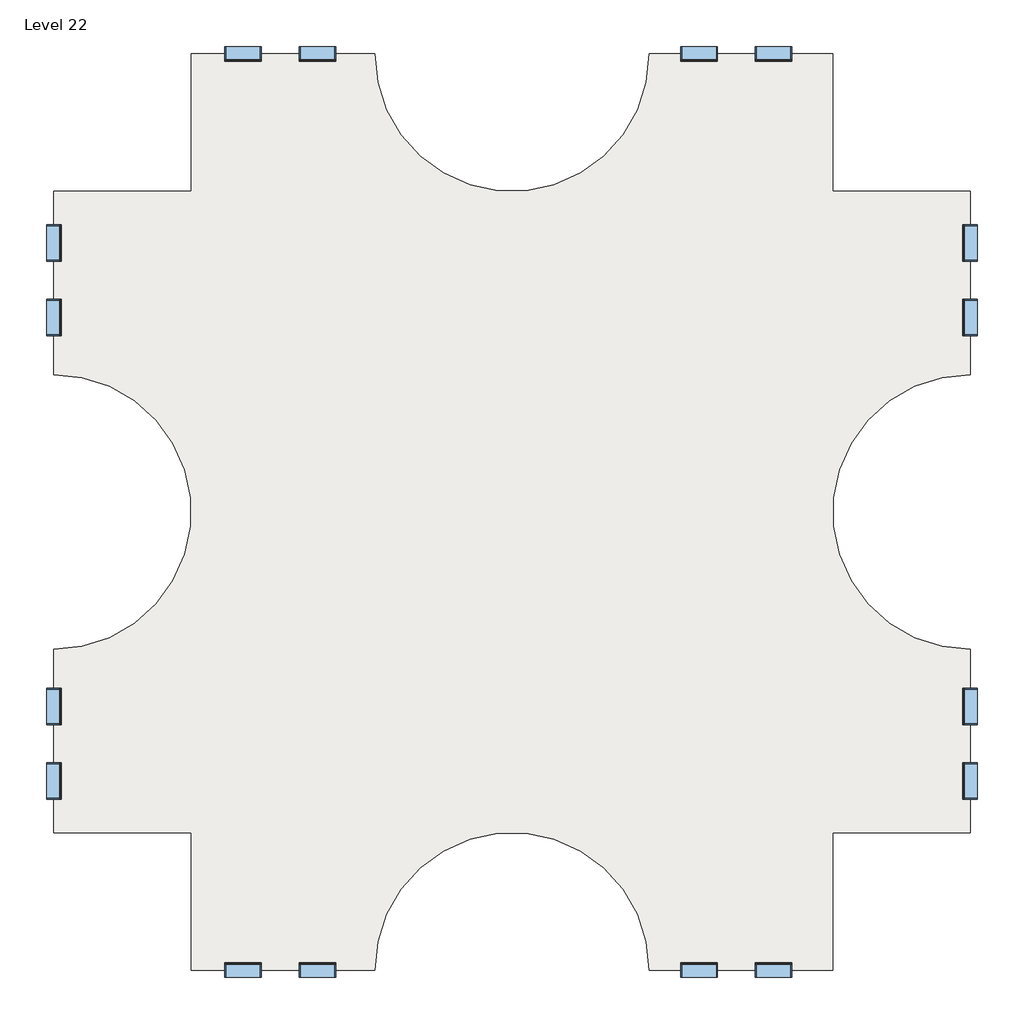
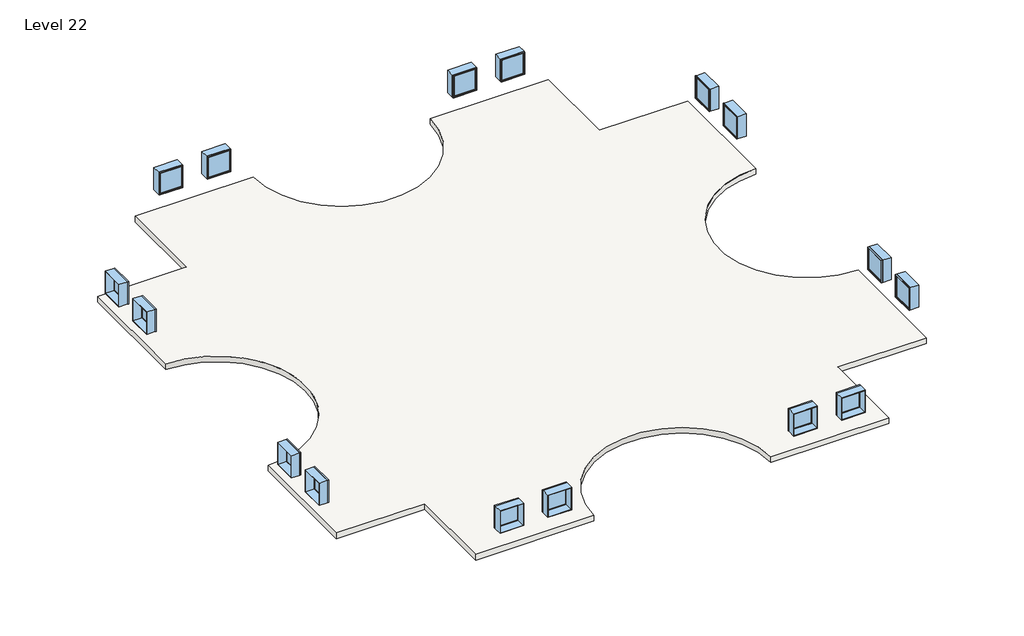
# One storey: 16 windows, 2 slabs.
"""IFC4 building model written with IfcOpenShell, lengths in millimetres."""

import ifcopenshell
import ifcopenshell.guid

model = None  # the IFC model being written
_history = None  # IfcOwnerHistory: only IFC2X3 demands one
_inside = {}  # id of a spatial element -> (the spatial element, [elements in it])
_under = {}  # id of a project, library or spatial element -> (it, [spatial elements below it])
_declared = {}  # id of a project -> (the project, [libraries it declares])
_typed = {}  # id of a type object -> (the type object, [elements of that type])
_made_of = {}  # id of a material, layer set ... -> (it, [elements and type objects made of it])


def new_model(schema):
    """Start an empty IFC model of exactly this schema.

    Asked for "IFC4X3", IfcOpenShell would pick the latest addendum, in which some entities
    have other attributes; the version numbers below select the first issue.
    IFC2X3 requires an IfcOwnerHistory on every rooted entity: one is made here for all.
    """
    global model, _history
    if schema == "IFC4X3":
        model = ifcopenshell.file(schema_version=(4, 3, 0, 0))
    else:
        model = ifcopenshell.file(schema=schema)
    _inside.clear()
    _under.clear()
    _declared.clear()
    _typed.clear()
    _made_of.clear()
    _history = None
    if model.schema == "IFC2X3":
        org = make("IfcOrganization", Name="unknown")
        user = make(
            "IfcPersonAndOrganization",
            ThePerson=make("IfcPerson", FamilyName="unknown"),
            TheOrganization=org,
        )
        app = make(
            "IfcApplication",
            ApplicationDeveloper=org,
            Version="unknown",
            ApplicationFullName="unknown",
            ApplicationIdentifier="unknown",
        )
        _history = make(
            "IfcOwnerHistory",
            OwningUser=user,
            OwningApplication=app,
            ChangeAction="ADDED",
            CreationDate=0,
        )
    return model


def make(cls, **values):
    """One entity of the class cls with the attributes given. An attribute that is None is left unset."""
    return model.create_entity(
        cls, **{name: value for name, value in values.items() if value is not None}
    )


def rooted(cls, **values):
    """An entity with a GlobalId (a new one), such as an element, a storey or a relation."""
    return make(cls, GlobalId=ifcopenshell.guid.new(), OwnerHistory=_history, **values)


def si_unit(unit_type, name, prefix=None):
    """IfcSIUnit, for example si_unit("LENGTHUNIT", "METRE", prefix="MILLI")."""
    return make("IfcSIUnit", UnitType=unit_type, Prefix=prefix, Name=name)


def assignment(units):
    """IfcUnitAssignment: the units of a project."""
    return None if units is None else make("IfcUnitAssignment", Units=units)


def point(xyz):
    """IfcCartesianPoint."""
    return None if xyz is None else make("IfcCartesianPoint", Coordinates=xyz)


def direction(xyz):
    """IfcDirection."""
    return None if xyz is None else make("IfcDirection", DirectionRatios=xyz)


def frame(location, z_axis=None, x_axis=None):
    """IfcAxis2Placement3D, a coordinate frame: its origin and axes. An axis left out is left unset."""
    return make(
        "IfcAxis2Placement3D",
        Location=point(location),
        Axis=direction(z_axis),
        RefDirection=direction(x_axis),
    )


def frame_2d(location, x_axis=None):
    """IfcAxis2Placement2D, a coordinate frame in the plane: its origin and x axis."""
    return make(
        "IfcAxis2Placement2D", Location=point(location), RefDirection=direction(x_axis)
    )


def origin():
    """The frame at (0, 0, 0) with its axes left unset."""
    return frame((0.0, 0.0, 0.0))


def place(relative_to, where):
    """IfcLocalPlacement: puts the frame where relative to a parent placement (None: the world)."""
    return make(
        "IfcLocalPlacement", PlacementRelTo=relative_to, RelativePlacement=where
    )


def context(
    kind, dimensions, precision=None, world=None, true_north=None, identifier=None
):
    """IfcGeometricRepresentationContext, for example the 3D "Model" context."""
    return make(
        "IfcGeometricRepresentationContext",
        ContextIdentifier=identifier,
        ContextType=kind,
        CoordinateSpaceDimension=dimensions,
        Precision=precision,
        WorldCoordinateSystem=world,
        TrueNorth=true_north,
    )


def project(units=None, contexts=None):
    """IfcProject with its units and contexts."""
    return rooted(
        "IfcProject",
        Name="project",
        RepresentationContexts=contexts,
        UnitsInContext=assignment(units),
    )


def spatial(cls, under=None, at=None, **own):
    """A site, building, storey or space (cls), placed at a placement, below another one or the project."""
    s = rooted(cls, ObjectPlacement=at, **own)
    if under is not None:
        _under.setdefault(under.id(), (under, []))[1].append(s)
    return s


def polyline(points):
    """IfcPolyline through the points."""
    return make("IfcPolyline", Points=[point(p) for p in points])


def circle_curve(where, radius):
    """IfcCircle in the frame where."""
    return make("IfcCircle", Position=where, Radius=radius)


def trimmed(basis, trim1, trim2, sense, master):
    """IfcTrimmedCurve: the piece of a basis curve between two trims."""
    return make(
        "IfcTrimmedCurve",
        BasisCurve=basis,
        Trim1=trim1,
        Trim2=trim2,
        SenseAgreement=sense,
        MasterRepresentation=master,
    )


def segment(curve, same_sense, transition):
    """IfcCompositeCurveSegment."""
    return make(
        "IfcCompositeCurveSegment",
        Transition=transition,
        SameSense=same_sense,
        ParentCurve=curve,
    )


def composite_curve(segments, self_intersect=None):
    """IfcCompositeCurve: segments joined end to end."""
    return make("IfcCompositeCurve", Segments=segments, SelfIntersect=self_intersect)


def outline(outer, holes=None, kind="AREA"):
    """IfcArbitraryClosedProfileDef: a profile drawn as a closed curve; with holes, ...WithVoids."""
    if holes is None:
        return make("IfcArbitraryClosedProfileDef", ProfileType=kind, OuterCurve=outer)
    return make(
        "IfcArbitraryProfileDefWithVoids",
        ProfileType=kind,
        OuterCurve=outer,
        InnerCurves=holes,
    )


def extrude(swept, where, along, depth):
    """IfcExtrudedAreaSolid: the profile swept, set in the frame where, extruded along a direction by depth."""
    return make(
        "IfcExtrudedAreaSolid",
        SweptArea=swept,
        Position=where,
        ExtrudedDirection=direction(along),
        Depth=depth,
    )


def shape(context_of_items, identifier, shape_type, items):
    """IfcShapeRepresentation: the items that make up one representation, for example the "Body"."""
    return make(
        "IfcShapeRepresentation",
        ContextOfItems=context_of_items,
        RepresentationIdentifier=identifier,
        RepresentationType=shape_type,
        Items=items,
    )


def source(mapping_origin, context_of_items, identifier, shape_type, items):
    """IfcRepresentationMap: a shape defined once, which mapped items show again and again."""
    return make(
        "IfcRepresentationMap",
        MappingOrigin=mapping_origin,
        MappedRepresentation=shape(context_of_items, identifier, shape_type, items),
    )


def transform(
    local_origin,
    x_axis=None,
    y_axis=None,
    z_axis=None,
    scale=None,
    scale2=None,
    scale3=None,
    uniform=True,
):
    """IfcCartesianTransformationOperator3D, or its non-uniform kind. x_axis, y_axis, z_axis: its Axis1, 2, 3."""
    if uniform:
        return make(
            "IfcCartesianTransformationOperator3D",
            Axis1=direction(x_axis),
            Axis2=direction(y_axis),
            LocalOrigin=point(local_origin),
            Scale=scale,
            Axis3=direction(z_axis),
        )
    return make(
        "IfcCartesianTransformationOperator3DnonUniform",
        Axis1=direction(x_axis),
        Axis2=direction(y_axis),
        LocalOrigin=point(local_origin),
        Scale=scale,
        Axis3=direction(z_axis),
        Scale2=scale2,
        Scale3=scale3,
    )


def mapped(mapping_source, mapping_target):
    """IfcMappedItem: shows the shape of a source again, moved by a transform."""
    return make(
        "IfcMappedItem", MappingSource=mapping_source, MappingTarget=mapping_target
    )


def made_of(thing, what):
    """Note that an element or type object is made of a material, layer set ...; save() writes the relation."""
    if what is not None:
        _made_of.setdefault(what.id(), (what, []))[1].append(thing)
    return thing


def element(
    cls,
    number,
    at=None,
    inside=None,
    cuts=None,
    type_object=None,
    material=None,
    context=None,
    identifier="Body",
    shape_type=None,
    held_by="IfcProductDefinitionShape",
    body=None,
    shapes=None,
    **own,
):
    """One element of the class cls, such as IfcWall. Its Tag is "e" and its number.

    at: its placement. inside: the storey or other place that contains it. cuts: it is an
    opening in that element (IfcRelVoidsElement). A single representation is given by context,
    identifier, shape_type and body (its items); several are given by shapes. held_by: the class
    of the entity that holds the representations. save() writes the other relations.
    """
    e = rooted(cls, Tag="e%d" % number, ObjectPlacement=at, **own)
    if body is not None:
        shapes = [shape(context, identifier, shape_type, body)]
    if shapes is not None:
        e.Representation = make(held_by, Representations=shapes)
    if inside is not None:
        _inside.setdefault(inside.id(), (inside, []))[1].append(e)
    if cuts is not None:
        rooted(
            "IfcRelVoidsElement", RelatingBuildingElement=cuts, RelatedOpeningElement=e
        )
    if type_object is not None:
        _typed.setdefault(type_object.id(), (type_object, []))[1].append(e)
    return made_of(e, material)


def aggregate(whole, parts):
    """IfcRelAggregates: a whole, such as a stair, and the parts it consists of."""
    return rooted("IfcRelAggregates", RelatingObject=whole, RelatedObjects=parts)


def save(model, path):
    """Write the relations noted so far, then the file.

    IfcRelAggregates (storeys below a building ...), IfcRelContainedInSpatialStructure (elements
    in a storey), IfcRelDefinesByType, IfcRelAssociatesMaterial and IfcRelDeclares: one each for
    every whole, place, type object, material and project.
    """
    for whole, parts in _under.values():
        aggregate(whole, parts)
    for where, things in _inside.values():
        rooted(
            "IfcRelContainedInSpatialStructure",
            RelatedElements=things,
            RelatingStructure=where,
        )
    for kind, things in _typed.values():
        rooted("IfcRelDefinesByType", RelatedObjects=things, RelatingType=kind)
    for what, things in _made_of.values():
        rooted("IfcRelAssociatesMaterial", RelatedObjects=things, RelatingMaterial=what)
    for by, libraries in _declared.values():
        rooted("IfcRelDeclares", RelatingContext=by, RelatedDefinitions=libraries)
    model.write(path)


def window_d0035ecf(model_context):
    return source(origin(), model_context, "Body", "SweptSolid", [
        extrude(outline(polyline([(508.0, 200.025), (-584.2, 200.025), (-584.2, 212.725), (508.0, 212.725), (508.0, 200.025)])), frame((0.0, 0.0, 977.9), z_axis=(0.0, 0.0, 1.0), x_axis=(1.0, 0.0, 0.0)), (0.0, 0.0, 1.0), 1092.2),
        extrude(outline(polyline([(2114.55, -628.65), (933.45, -628.65), (933.45, 552.45), (2114.55, 552.45), (2114.55, -628.65)]), holes=[polyline([(2070.1, -584.2), (2070.1, 508.0), (977.9, 508.0), (977.9, -584.2), (2070.1, -584.2)])]), frame((0.0, 184.15, 0.0), z_axis=(0.0, 1.0, 0.0), x_axis=(0.0, 0.0, 1.0)), (0.0, 0.0, 1.0), 44.45),
        extrude(outline(polyline([(2133.6, -647.7), (914.4, -647.7), (914.4, 571.5), (2133.6, 571.5), (2133.6, -647.7)]), holes=[polyline([(2101.85, -615.95), (2101.85, 539.75), (946.15, 539.75), (946.15, -615.95), (2101.85, -615.95)])]), frame((0.0, -247.65, 0.0), z_axis=(0.0, 1.0, 0.0), x_axis=(0.0, 0.0, 1.0)), (0.0, 0.0, 1.0), 431.8),
        extrude(outline(polyline([(2133.6, 571.5), (2133.6, -647.7), (914.4, -647.7), (914.4, 571.5), (2133.6, 571.5)]), holes=[polyline([(2114.55, 552.45), (933.45, 552.45), (933.45, -628.65), (2114.55, -628.65), (2114.55, 552.45)])]), frame((0.0, 184.15, 0.0), z_axis=(0.0, 1.0, 0.0), x_axis=(0.0, 0.0, 1.0)), (0.0, 0.0, 1.0), 63.5),
    ])


def window_d434eb62(model_context):
    return source(origin(), model_context, "Body", "SweptSolid", [
        extrude(outline(polyline([(508.0, -200.025), (508.0, -212.725), (-584.2, -212.725), (-584.2, -200.025), (508.0, -200.025)])), frame((0.0, 0.0, 977.9), z_axis=(0.0, 0.0, 1.0), x_axis=(1.0, 0.0, 0.0)), (0.0, 0.0, 1.0), 1092.2),
        extrude(outline(polyline([(2114.55, -628.65), (933.45, -628.65), (933.45, 552.45), (2114.55, 552.45), (2114.55, -628.65)]), holes=[polyline([(2070.1, -584.2), (2070.1, 508.0), (977.9, 508.0), (977.9, -584.2), (2070.1, -584.2)])]), frame((0.0, -228.6, 0.0), z_axis=(0.0, 1.0, 0.0), x_axis=(0.0, 0.0, 1.0)), (0.0, 0.0, 1.0), 44.45),
        extrude(outline(polyline([(2133.6, -647.7), (914.4, -647.7), (914.4, 571.5), (2133.6, 571.5), (2133.6, -647.7)]), holes=[polyline([(2101.85, -615.95), (2101.85, 539.75), (946.15, 539.75), (946.15, -615.95), (2101.85, -615.95)])]), frame((0.0, -184.15, 0.0), z_axis=(0.0, 1.0, 0.0), x_axis=(0.0, 0.0, 1.0)), (0.0, 0.0, 1.0), 431.8),
        extrude(outline(polyline([(2133.6, 571.5), (2133.6, -647.7), (914.4, -647.7), (914.4, 571.5), (2133.6, 571.5)]), holes=[polyline([(2114.55, 552.45), (933.45, 552.45), (933.45, -628.65), (2114.55, -628.65), (2114.55, 552.45)])]), frame((0.0, -247.65, 0.0), z_axis=(0.0, 1.0, 0.0), x_axis=(0.0, 0.0, 1.0)), (0.0, 0.0, 1.0), 63.5),
    ])


model = new_model("IFC4")

# Units and contexts
model_context = context("Model", 3, world=origin())
ifc_project = project(units=[si_unit("LENGTHUNIT", "METRE", prefix="MILLI")], contexts=[model_context])

# Site, building, storey
site = spatial("IfcSite", under=ifc_project)
building = spatial("IfcBuilding", under=site)
storey = spatial("IfcBuildingStorey", under=building, Name="Level 22", Elevation=64008.0)

# Slabs
placement = place(None, origin())
element("IfcSlab", 1, ObjectType="Generic - 12\"", at=placement, inside=storey, context=model_context, shape_type="SweptSolid", body=[
    extrude(outline(composite_curve([segment(polyline([(-7150.3629456, 4479.6634547), (-7150.3629456, 9051.6634547), (-1054.3629456, 9051.6634547)]), True, "CONTINUOUS"), segment(trimmed(circle_curve(frame_2d((3517.6370544, 9051.6634547)), 4572.0), [point((-1054.3629456, 9051.6634547))], [point((8089.6370544, 9051.6634547))], True, "CARTESIAN"), True, "CONTINUOUS"), segment(polyline([(8089.6370544, 9051.6634547), (14185.6370544, 9051.6634547), (14185.6370544, 4479.6634547), (18757.6370544, 4479.6634547), (18757.6370544, -1616.3365453)]), True, "CONTINUOUS"), segment(trimmed(circle_curve(frame_2d((18757.6370544, -6188.3365453)), 4572.0), [point((18757.6370544, -1616.3365453))], [point((18757.6370544, -10760.3365453))], True, "CARTESIAN"), True, "CONTINUOUS"), segment(polyline([(18757.6370544, -10760.3365453), (18757.6370544, -16856.3365453), (14185.6370544, -16856.3365453), (14185.6370544, -21428.3365453), (8089.6370544, -21428.3365453)]), True, "CONTINUOUS"), segment(trimmed(circle_curve(frame_2d((3517.6370544, -21428.3365453)), 4572.0), [point((8089.6370544, -21428.3365453))], [point((-1054.3629456, -21428.3365453))], True, "CARTESIAN"), True, "CONTINUOUS"), segment(polyline([(-1054.3629456, -21428.3365453), (-7150.3629456, -21428.3365453), (-7150.3629456, -16856.3365453), (-11722.3629456, -16856.3365453), (-11722.3629456, -10760.3365453)]), True, "CONTINUOUS"), segment(trimmed(circle_curve(frame_2d((-11722.3629456, -6188.3365453)), 4572.0), [point((-11722.3629456, -10760.3365453))], [point((-11722.3629456, -1616.3365453))], True, "CARTESIAN"), True, "CONTINUOUS"), segment(polyline([(-11722.3629456, -1616.3365453), (-11722.3629456, 4479.6634547), (-7150.3629456, 4479.6634547)]), True, "CONTINUOUS")], self_intersect=False)), frame((0.0, 0.0, 63703.2), z_axis=(0.0, 0.0, 1.0), x_axis=(1.0, 0.0, 0.0)), (0.0, 0.0, 1.0), 304.8),
])
element("IfcSlab", 2, ObjectType="Generic - 12\"", at=placement, inside=storey, context=model_context, shape_type="SweptSolid", body=[
    extrude(outline(composite_curve([segment(polyline([(-7150.3629456, 4479.6634547), (-7150.3629456, 9051.6634547), (-1054.3629456, 9051.6634547)]), True, "CONTINUOUS"), segment(trimmed(circle_curve(frame_2d((3517.6370544, 9051.6634547)), 4572.0), [point((-1054.3629456, 9051.6634547))], [point((8089.6370544, 9051.6634547))], True, "CARTESIAN"), True, "CONTINUOUS"), segment(polyline([(8089.6370544, 9051.6634547), (14185.6370544, 9051.6634547), (14185.6370544, 4479.6634547), (18757.6370544, 4479.6634547), (18757.6370544, -1616.3365453)]), True, "CONTINUOUS"), segment(trimmed(circle_curve(frame_2d((18757.6370544, -6188.3365453)), 4572.0), [point((18757.6370544, -1616.3365453))], [point((18757.6370544, -10760.3365453))], True, "CARTESIAN"), True, "CONTINUOUS"), segment(polyline([(18757.6370544, -10760.3365453), (18757.6370544, -16856.3365453), (14185.6370544, -16856.3365453), (14185.6370544, -21428.3365453), (8089.6370544, -21428.3365453)]), True, "CONTINUOUS"), segment(trimmed(circle_curve(frame_2d((3517.6370544, -21428.3365453)), 4572.0), [point((8089.6370544, -21428.3365453))], [point((-1054.3629456, -21428.3365453))], True, "CARTESIAN"), True, "CONTINUOUS"), segment(polyline([(-1054.3629456, -21428.3365453), (-7150.3629456, -21428.3365453), (-7150.3629456, -16856.3365453), (-11722.3629456, -16856.3365453), (-11722.3629456, -10760.3365453)]), True, "CONTINUOUS"), segment(trimmed(circle_curve(frame_2d((-11722.3629456, -6188.3365453)), 4572.0), [point((-11722.3629456, -10760.3365453))], [point((-11722.3629456, -1616.3365453))], True, "CARTESIAN"), True, "CONTINUOUS"), segment(polyline([(-11722.3629456, -1616.3365453), (-11722.3629456, 4479.6634547), (-7150.3629456, 4479.6634547)]), True, "CONTINUOUS")], self_intersect=False)), frame((0.0, 0.0, 63703.2), z_axis=(0.0, 0.0, 1.0), x_axis=(1.0, 0.0, 0.0)), (0.0, 0.0, 1.0), 304.8),
])

# Windows
window_shape = window_d0035ecf(model_context)
element("IfcWindow", 3, ObjectType="Fixed : 48\" x 48\"", at=placement, inside=storey, context=model_context, shape_type="MappedRepresentation", body=[
    mapped(window_shape, transform((-11719.1879456, 247.3884547, 64008.0), x_axis=(0.0, -1.0, 0.0), y_axis=(1.0, 0.0, 0.0), z_axis=(0.0, 0.0, 1.0))),
])
element("IfcWindow", 4, ObjectType="Fixed : 48\" x 48\"", at=placement, inside=storey, context=model_context, shape_type="MappedRepresentation", body=[
    mapped(window_shape, transform((-5469.1993281, 9048.4884547, 64008.0), x_axis=(-1.0, 0.0, 0.0), y_axis=(0.0, -1.0, 0.0), z_axis=(0.0, 0.0, 1.0))),
])
element("IfcWindow", 5, ObjectType="Fixed : 48\" x 48\"", at=placement, inside=storey, context=model_context, shape_type="MappedRepresentation", body=[
    mapped(window_shape, transform((-11719.1879456, -15175.1729277, 64008.0), x_axis=(0.0, -1.0, 0.0), y_axis=(1.0, 0.0, 0.0), z_axis=(0.0, 0.0, 1.0))),
])
element("IfcWindow", 6, ObjectType="Fixed : 48\" x 48\"", at=placement, inside=storey, context=model_context, shape_type="MappedRepresentation", body=[
    mapped(window_shape, transform((-2918.0879456, -21425.1615453, 64008.0), x_axis=(1.0, 0.0, 0.0), y_axis=(0.0, 1.0, 0.0), z_axis=(0.0, 0.0, 1.0))),
])
element("IfcWindow", 7, ObjectType="Fixed : 48\" x 48\"", at=placement, inside=storey, context=model_context, shape_type="MappedRepresentation", body=[
    mapped(window_shape, transform((18754.4620544, 2798.4998372, 64008.0), x_axis=(0.0, 1.0, 0.0), y_axis=(-1.0, 0.0, 0.0), z_axis=(0.0, 0.0, 1.0))),
])
element("IfcWindow", 8, ObjectType="Fixed : 48\" x 48\"", at=placement, inside=storey, context=model_context, shape_type="MappedRepresentation", body=[
    mapped(window_shape, transform((9705.7120544, 9048.4884547, 64008.0), x_axis=(-1.0, 0.0, 0.0), y_axis=(0.0, -1.0, 0.0), z_axis=(0.0, 0.0, 1.0))),
])
element("IfcWindow", 9, ObjectType="Fixed : 48\" x 48\"", at=placement, inside=storey, context=model_context, shape_type="MappedRepresentation", body=[
    mapped(window_shape, transform((18754.4620544, -12624.0615453, 64008.0), x_axis=(0.0, 1.0, 0.0), y_axis=(-1.0, 0.0, 0.0), z_axis=(0.0, 0.0, 1.0))),
])
element("IfcWindow", 10, ObjectType="Fixed : 48\" x 48\"", at=placement, inside=storey, context=model_context, shape_type="MappedRepresentation", body=[
    mapped(window_shape, transform((12256.8234368, -21425.1615453, 64008.0), x_axis=(1.0, 0.0, 0.0), y_axis=(0.0, 1.0, 0.0), z_axis=(0.0, 0.0, 1.0))),
])
window_2_shape = window_d434eb62(model_context)
element("IfcWindow", 11, ObjectType="Fixed : 48\" x 48\"", at=placement, inside=storey, context=model_context, shape_type="MappedRepresentation", body=[
    mapped(window_2_shape, transform((-11719.1879456, 2798.4998372, 64008.0), x_axis=(0.0, 1.0, 0.0), y_axis=(-1.0, 0.0, 0.0), z_axis=(0.0, 0.0, 1.0))),
])
element("IfcWindow", 12, ObjectType="Fixed : 48\" x 48\"", at=placement, inside=storey, context=model_context, shape_type="MappedRepresentation", body=[
    mapped(window_2_shape, transform((-2918.0879456, 9048.4884547, 64008.0), x_axis=(1.0, 0.0, 0.0), y_axis=(0.0, 1.0, 0.0), z_axis=(0.0, 0.0, 1.0))),
])
element("IfcWindow", 13, ObjectType="Fixed : 48\" x 48\"", at=placement, inside=storey, context=model_context, shape_type="MappedRepresentation", body=[
    mapped(window_2_shape, transform((-11719.1879456, -12624.0615453, 64008.0), x_axis=(0.0, 1.0, 0.0), y_axis=(-1.0, 0.0, 0.0), z_axis=(0.0, 0.0, 1.0))),
])
element("IfcWindow", 14, ObjectType="Fixed : 48\" x 48\"", at=placement, inside=storey, context=model_context, shape_type="MappedRepresentation", body=[
    mapped(window_2_shape, transform((-5469.1993281, -21425.1615453, 64008.0), x_axis=(-1.0, 0.0, 0.0), y_axis=(0.0, -1.0, 0.0), z_axis=(0.0, 0.0, 1.0))),
])
element("IfcWindow", 15, ObjectType="Fixed : 48\" x 48\"", at=placement, inside=storey, context=model_context, shape_type="MappedRepresentation", body=[
    mapped(window_2_shape, transform((18754.4620544, 247.3884547, 64008.0), x_axis=(0.0, -1.0, 0.0), y_axis=(1.0, 0.0, 0.0), z_axis=(0.0, 0.0, 1.0))),
])
element("IfcWindow", 16, ObjectType="Fixed : 48\" x 48\"", at=placement, inside=storey, context=model_context, shape_type="MappedRepresentation", body=[
    mapped(window_2_shape, transform((12256.8234368, 9048.4884547, 64008.0), x_axis=(1.0, 0.0, 0.0), y_axis=(0.0, 1.0, 0.0), z_axis=(0.0, 0.0, 1.0))),
])
element("IfcWindow", 17, ObjectType="Fixed : 48\" x 48\"", at=placement, inside=storey, context=model_context, shape_type="MappedRepresentation", body=[
    mapped(window_2_shape, transform((18754.4620544, -15175.1729277, 64008.0), x_axis=(0.0, -1.0, 0.0), y_axis=(1.0, 0.0, 0.0), z_axis=(0.0, 0.0, 1.0))),
])
element("IfcWindow", 18, ObjectType="Fixed : 48\" x 48\"", at=placement, inside=storey, context=model_context, shape_type="MappedRepresentation", body=[
    mapped(window_2_shape, transform((9705.7120544, -21425.1615453, 64008.0), x_axis=(-1.0, 0.0, 0.0), y_axis=(0.0, -1.0, 0.0), z_axis=(0.0, 0.0, 1.0))),
])

save(model, "model.ifc")
